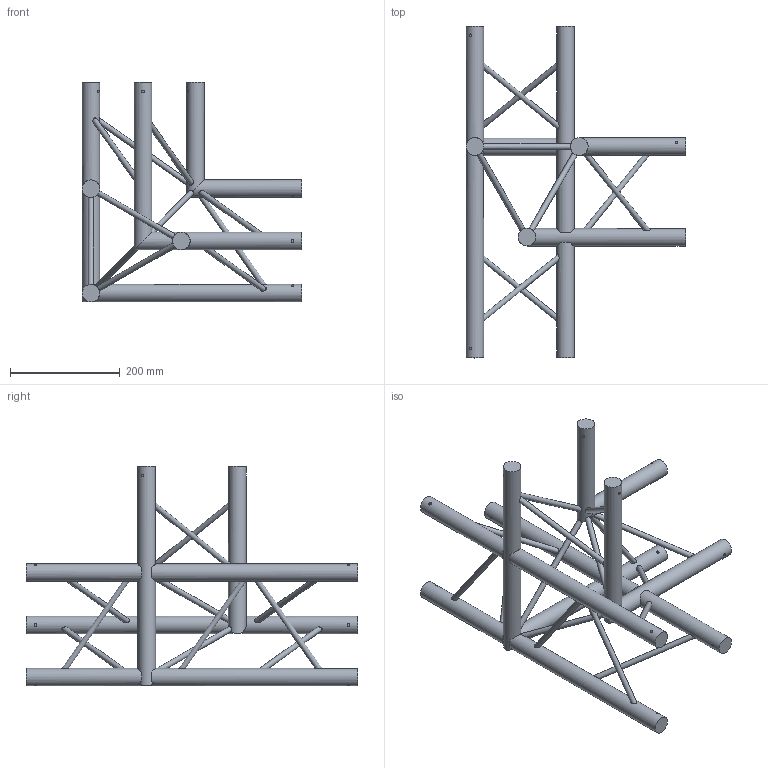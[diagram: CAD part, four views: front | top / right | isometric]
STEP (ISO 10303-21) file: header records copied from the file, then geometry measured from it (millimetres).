
FILE_DESCRIPTION(/* description */ (''),/* implementation_level */ '2;1');
FILE_NAME(/* name */ 'M:\Symbolen_NIEUW\STP\Corners\E20D\E20D-C015_111010013.stp',/* time_stamp */ '2017-11-16T16:16:52+01:00',/* author */ ('Kees'),/* organization */ (''),/* preprocessor_version */ 'ST-DEVELOPER v16.13',/* originating_system */ 'Autodesk Inventor 2018',/* authorisation */ '');
FILE_SCHEMA (('AUTOMOTIVE_DESIGN { 1 0 10303 214 3 1 1 }'));
Length unit declared in the file: millimetre
Products named in the file (1): 160000050
Bounding box: 400 x 603.46 x 400 mm (x, y, z)
Volume: 2930032.8 mm3; surface area: 464877.9 mm2
Topology: 13 solids, 17 shells, 169 faces, 378 edges, 246 vertices
Faces by surface type: plane 87, cylinder 82
Full cylindrical faces by diameter (mm): 5 x12, 10 x16, 32 x12
Entity records: 5508 total; most frequent: CARTESIAN_POINT 1777, DIRECTION 729, ORIENTED_EDGE 682, EDGE_CURVE 341, AXIS2_PLACEMENT_3D 316, VERTEX_POINT 280, EDGE_LOOP 249, STYLED_ITEM 133
